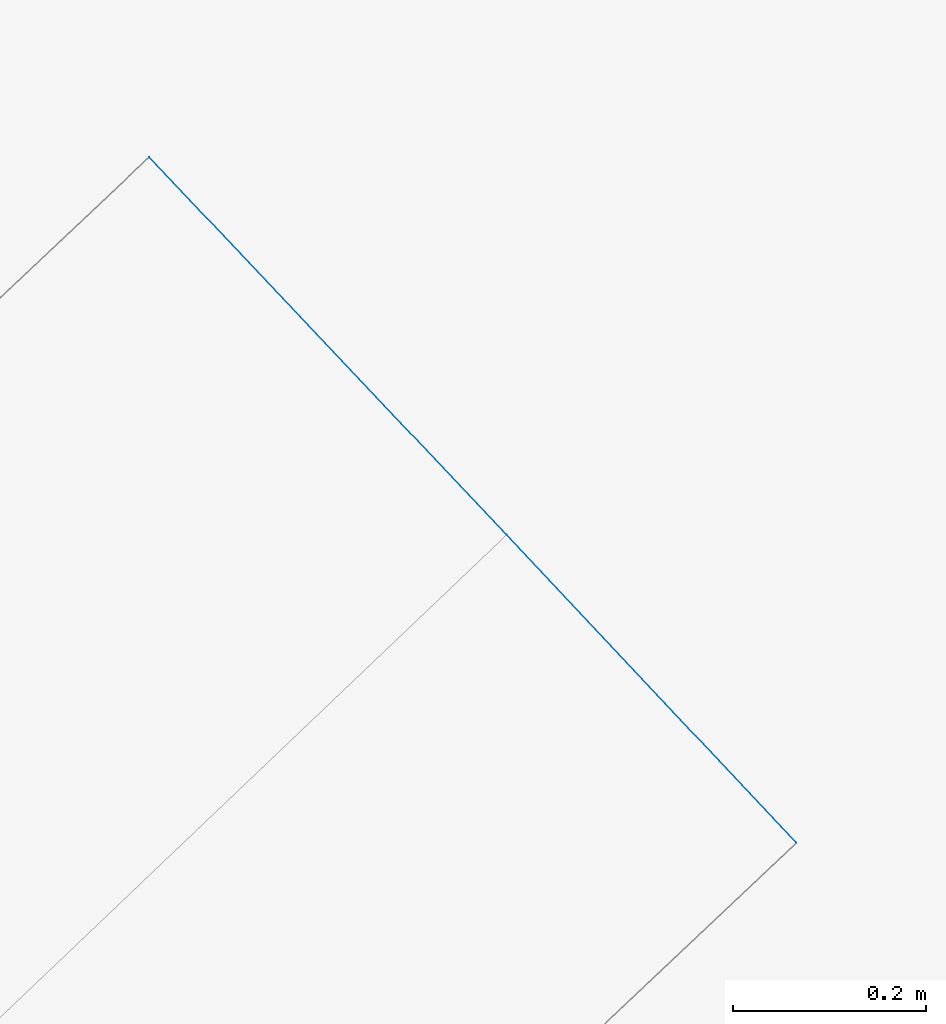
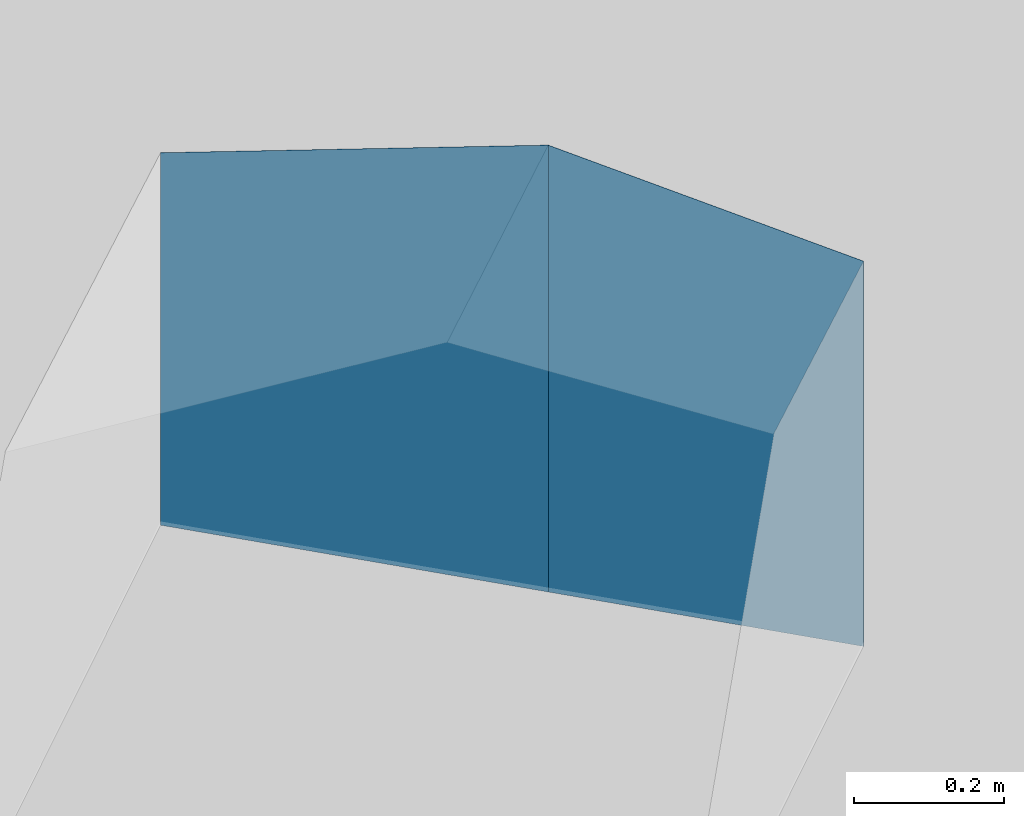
# Not in any storey, part 111 of 136: 2 walls.
"""IFC4 building model written with IfcOpenShell, lengths in metres."""

from ifc_helpers import new_model, entity, si_unit, converted_unit, origin, place, context, subcontext, project, spatial, face_set, surface_model, element, save


model = new_model("IFC4")

# Units and contexts
model_context = context("Model", 3, precision=1e-05, world=origin())
body_context = subcontext(model_context, "Body", "Model", "MODEL_VIEW")
ifc_project = project(units=[converted_unit("PLANEANGLEUNIT", "DEGREE", entity("IfcRatioMeasure", 0.0174532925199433), si_unit("PLANEANGLEUNIT", "RADIAN"), dimensions=[0, 0, 0, 0, 0, 0, 0]), si_unit("AREAUNIT", "SQUARE_METRE"), si_unit("LENGTHUNIT", "METRE")], contexts=[model_context])

# Site, building
site_placement = place(None, origin())
site = spatial("IfcSite", under=ifc_project, at=site_placement, Name="_site")
building_placement = place(site_placement, origin())
building = spatial("IfcBuilding", under=site, at=building_placement, Name="_building")

# Walls
wall_1_placement = place(building_placement, origin())
element("IfcWall", 1, at=wall_1_placement, inside=building, Name="Wall", PredefinedType="NOTDEFINED", context=body_context, shape_type="SurfaceModel", body=[
    surface_model("IfcFaceBasedSurfaceModel", [(4.01, 136.13, 51.44), (4.31, 135.811, 51.34), (4.31, 135.811, 50.714), (4.01, 136.13, 50.714)], [face_set([[[0, 1, 2, 3]]])]),
])
wall_2_placement = place(building_placement, origin())
element("IfcWall", 2, at=wall_2_placement, inside=building, Name="Wall", PredefinedType="NOTDEFINED", context=body_context, shape_type="SurfaceModel", body=[
    surface_model("IfcFaceBasedSurfaceModel", [(3.64, 136.521, 51.32), (4.01, 136.13, 51.44), (4.01, 136.13, 50.714), (3.64, 136.521, 50.715)], [face_set([[[0, 1, 2, 3]]])]),
])

save(model, "model.ifc")
